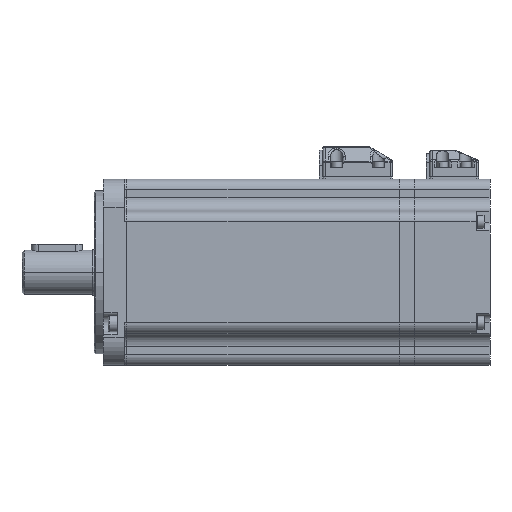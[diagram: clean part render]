
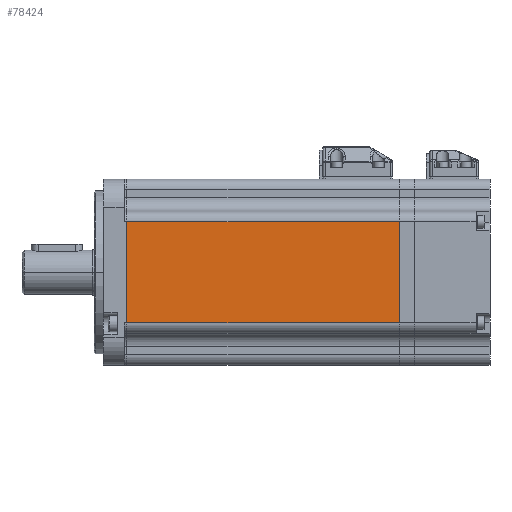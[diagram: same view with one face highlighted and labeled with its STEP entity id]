
A CAD part, front view. The second image highlights one B-rep face of the part: STEP entity #78424.
In plain terms, the highlighted planar face has unit normal (0, -1, 0) as drawn and (-1, 0, 0) by its records, which use the part's own axes.
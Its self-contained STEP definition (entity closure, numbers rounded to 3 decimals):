
#602 = VECTOR ( 'NONE', #75187, 1000. ) ;
#7294 = EDGE_CURVE ( 'NONE', #19345, #70977, #8519, .T. ) ;
#8519 = LINE ( 'NONE', #70203, #74320 ) ;
#9457 = AXIS2_PLACEMENT_3D ( 'NONE', #59166, #65534, #27333 ) ;
#15564 = EDGE_CURVE ( 'NONE', #70977, #66533, #47723, .T. ) ;
#15877 = CARTESIAN_POINT ( 'NONE',  ( -40., 21.75, 0. ) ) ;
#17581 = LINE ( 'NONE', #68790, #602 ) ;
#19345 = VERTEX_POINT ( 'NONE', #73556 ) ;
#20946 = ORIENTED_EDGE ( 'NONE', *, *, #7294, .T. ) ;
#27333 = DIRECTION ( 'NONE',  ( 0., 1., 0. ) ) ;
#29196 = LINE ( 'NONE', #57499, #78056 ) ;
#32010 = DIRECTION ( 'NONE',  ( 0., 0., -1. ) ) ;
#32117 = VERTEX_POINT ( 'NONE', #53769 ) ;
#41334 = DIRECTION ( 'NONE',  ( 0., -1., 0. ) ) ;
#44674 = DIRECTION ( 'NONE',  ( 0., 0., 1. ) ) ;
#47723 = LINE ( 'NONE', #48562, #68779 ) ;
#48562 = CARTESIAN_POINT ( 'NONE',  ( -40., 26.25, 0. ) ) ;
#53311 = EDGE_CURVE ( 'NONE', #19345, #32117, #17581, .T. ) ;
#53769 = CARTESIAN_POINT ( 'NONE',  ( -40., -21.75, 117.2 ) ) ;
#57499 = CARTESIAN_POINT ( 'NONE',  ( -40., -21.75, 117.2 ) ) ;
#59166 = CARTESIAN_POINT ( 'NONE',  ( -40., 26.25, 117.2 ) ) ;
#60437 = CARTESIAN_POINT ( 'NONE',  ( -40., -21.75, 0. ) ) ;
#62154 = FACE_OUTER_BOUND ( 'NONE', #81222, .T. ) ;
#65534 = DIRECTION ( 'NONE',  ( 1., 0., 0. ) ) ;
#66533 = VERTEX_POINT ( 'NONE', #60437 ) ;
#68779 = VECTOR ( 'NONE', #41334, 1000. ) ;
#68790 = CARTESIAN_POINT ( 'NONE',  ( -40., 26.25, 117.2 ) ) ;
#70203 = CARTESIAN_POINT ( 'NONE',  ( -40., 21.75, 117.2 ) ) ;
#70977 = VERTEX_POINT ( 'NONE', #15877 ) ;
#71340 = PLANE ( 'NONE',  #9457 ) ;
#73556 = CARTESIAN_POINT ( 'NONE',  ( -40., 21.75, 117.2 ) ) ;
#73601 = ORIENTED_EDGE ( 'NONE', *, *, #77242, .T. ) ;
#74320 = VECTOR ( 'NONE', #32010, 1000. ) ;
#75187 = DIRECTION ( 'NONE',  ( 0., -1., 0. ) ) ;
#76052 = ORIENTED_EDGE ( 'NONE', *, *, #53311, .F. ) ;
#77242 = EDGE_CURVE ( 'NONE', #66533, #32117, #29196, .T. ) ;
#78056 = VECTOR ( 'NONE', #44674, 1000. ) ;
#78424 = ADVANCED_FACE ( 'NONE', ( #62154 ), #71340, .F. ) ;
#81222 = EDGE_LOOP ( 'NONE', ( #76052, #20946, #82382, #73601 ) ) ;
#82382 = ORIENTED_EDGE ( 'NONE', *, *, #15564, .T. ) ;
